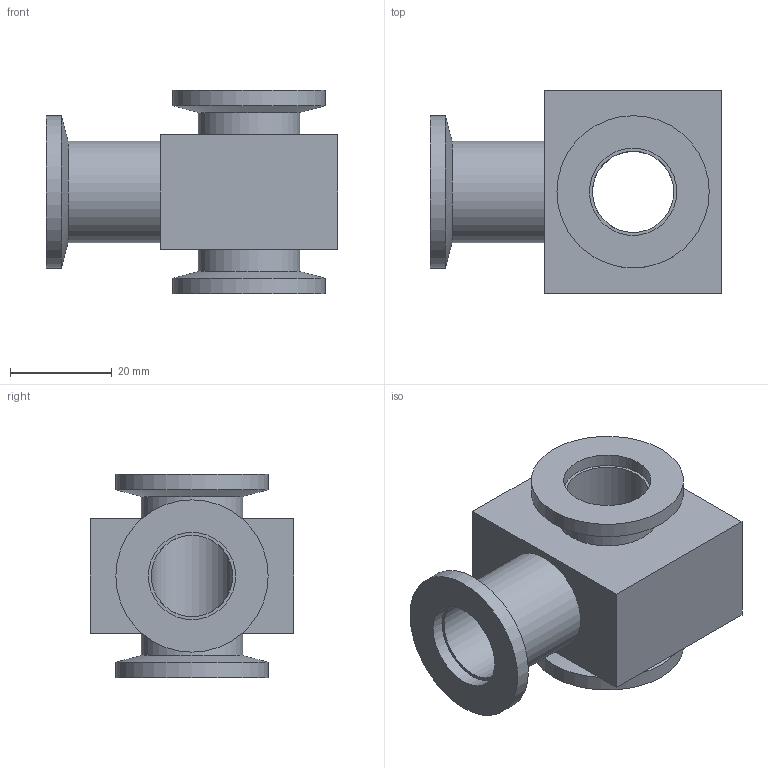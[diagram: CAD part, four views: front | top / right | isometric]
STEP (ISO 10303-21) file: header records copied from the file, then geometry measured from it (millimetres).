
FILE_DESCRIPTION( ( 'Unknown' ), '1' );
FILE_NAME( 'X:/Daten ( aktueller Bestand )/Projekte und Zeichnungen/Solid Edge/1 Kleinflanschverzweigungen/POM/T-Stück POM/1022P.stp', 'Unknown', ( 'Unknown' ), ( 'Unknown' ), 'XStep 1.0', 'Unknown', ' ' );
FILE_SCHEMA( ( 'automotive_design' ) );
Length unit declared in the file: millimetre
Products named in the file (1): 1
Bounding box: 57.5 x 40 x 40 mm (x, y, z)
Volume: 33382.9 mm3; surface area: 14050.6 mm2
Topology: 1 solids, 1 shells, 26 faces, 54 edges, 35 vertices
Faces by surface type: plane 12, cylinder 11, cone 3
Full cylindrical faces by diameter (mm): 16 x2, 17.2 x3, 20 x3, 30 x3
Entity records: 818 total; most frequent: DIRECTION 112, CARTESIAN_POINT 93, ORIENTED_EDGE 70, AXIS2_PLACEMENT_3D 50, EDGE_LOOP 50, FACE_OUTER_BOUND 37, EDGE_CURVE 35, VERTEX_POINT 31
